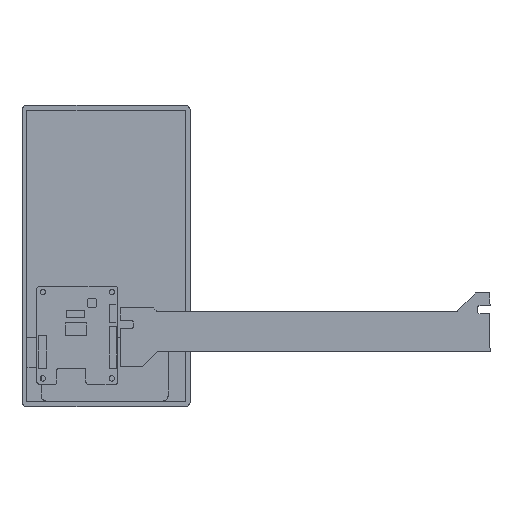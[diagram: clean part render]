
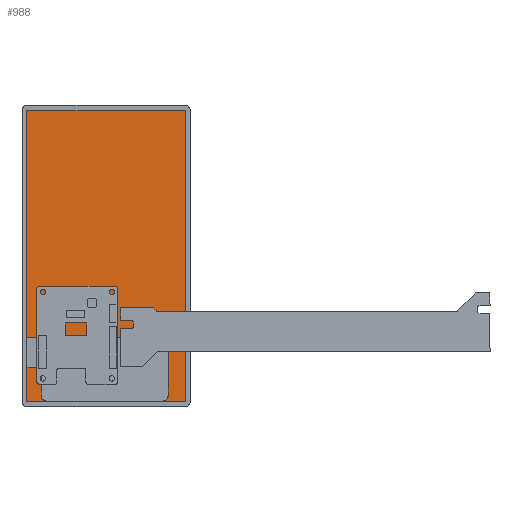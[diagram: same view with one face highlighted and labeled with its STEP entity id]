
A CAD part, top view. The second image highlights one B-rep face of the part: STEP entity #988.
In plain terms, the highlighted planar face has unit normal (0, 0, 1).
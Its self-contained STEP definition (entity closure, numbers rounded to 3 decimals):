
#86 = ORIENTED_EDGE ( 'NONE', *, *, #2757, .T. ) ;
#298 = DIRECTION ( 'NONE',  ( 1., 0., 0. ) ) ;
#354 = DIRECTION ( 'NONE',  ( 0., 0., 1. ) ) ;
#553 = DIRECTION ( 'NONE',  ( 0., -1., 0. ) ) ;
#753 = EDGE_CURVE ( 'NONE', #4259, #2380, #2587, .T. ) ;
#988 = ADVANCED_FACE ( 'NONE', ( #1288 ), #1086, .T. ) ;
#1086 = PLANE ( 'NONE',  #3480 ) ;
#1114 = CARTESIAN_POINT ( 'NONE',  ( 344.807, 430.639, 2.71 ) ) ;
#1288 = FACE_OUTER_BOUND ( 'NONE', #2605, .T. ) ;
#1390 = DIRECTION ( 'NONE',  ( 0., 1., 0. ) ) ;
#1421 = CARTESIAN_POINT ( 'NONE',  ( 0., 0., 2.71 ) ) ;
#1965 = CARTESIAN_POINT ( 'NONE',  ( 280.507, 312.189, 2.71 ) ) ;
#2187 = VERTEX_POINT ( 'NONE', #1965 ) ;
#2305 = CARTESIAN_POINT ( 'NONE',  ( 344.807, 430.639, 2.71 ) ) ;
#2330 = VERTEX_POINT ( 'NONE', #3888 ) ;
#2353 = ORIENTED_EDGE ( 'NONE', *, *, #2655, .T. ) ;
#2366 = CARTESIAN_POINT ( 'NONE',  ( 280.507, 430.639, 2.71 ) ) ;
#2380 = VERTEX_POINT ( 'NONE', #3578 ) ;
#2422 = EDGE_CURVE ( 'NONE', #2330, #4259, #4381, .T. ) ;
#2423 = LINE ( 'NONE', #2366, #4149 ) ;
#2451 = ORIENTED_EDGE ( 'NONE', *, *, #2422, .T. ) ;
#2587 = LINE ( 'NONE', #2305, #4388 ) ;
#2605 = EDGE_LOOP ( 'NONE', ( #2353, #86, #2451, #2896 ) ) ;
#2655 = EDGE_CURVE ( 'NONE', #2380, #2187, #2423, .T. ) ;
#2757 = EDGE_CURVE ( 'NONE', #2187, #2330, #3552, .T. ) ;
#2896 = ORIENTED_EDGE ( 'NONE', *, *, #753, .T. ) ;
#3412 = DIRECTION ( 'NONE',  ( -1., 0., 0. ) ) ;
#3480 = AXIS2_PLACEMENT_3D ( 'NONE', #1421, #354, #298 ) ;
#3552 = LINE ( 'NONE', #4247, #4600 ) ;
#3563 = CARTESIAN_POINT ( 'NONE',  ( 344.807, 312.189, 2.71 ) ) ;
#3578 = CARTESIAN_POINT ( 'NONE',  ( 280.507, 430.639, 2.71 ) ) ;
#3888 = CARTESIAN_POINT ( 'NONE',  ( 344.807, 312.189, 2.71 ) ) ;
#4149 = VECTOR ( 'NONE', #553, 1000. ) ;
#4247 = CARTESIAN_POINT ( 'NONE',  ( 280.507, 312.189, 2.71 ) ) ;
#4259 = VERTEX_POINT ( 'NONE', #1114 ) ;
#4381 = LINE ( 'NONE', #3563, #4436 ) ;
#4388 = VECTOR ( 'NONE', #3412, 1000. ) ;
#4436 = VECTOR ( 'NONE', #1390, 1000. ) ;
#4592 = DIRECTION ( 'NONE',  ( 1., 0., 0. ) ) ;
#4600 = VECTOR ( 'NONE', #4592, 1000. ) ;
